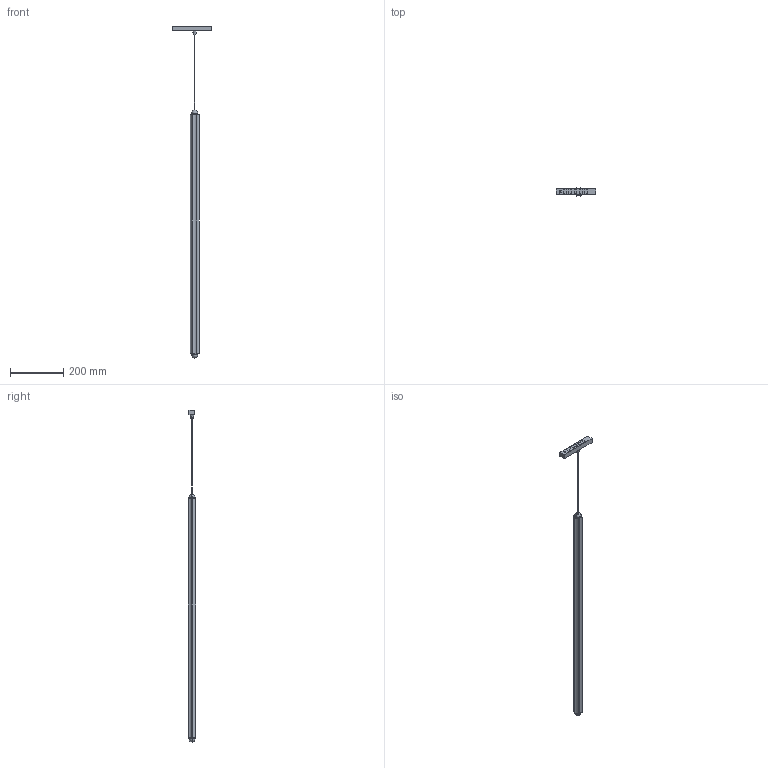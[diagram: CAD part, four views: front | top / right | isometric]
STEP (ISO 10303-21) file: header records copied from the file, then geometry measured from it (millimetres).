
FILE_DESCRIPTION(/* description */ (''),/* implementation_level */ '2;1');
FILE_NAME(/* name */ '64662141_3d',/* time_stamp */ '2026-05-12T08:41:05+02:00',/* author */ (''),/* organization */ (''),/* preprocessor_version */ 'ST-DEVELOPER v19.2',/* originating_system */ 'Rhino 8.30',/* authorisation */ '');
FILE_SCHEMA (('CONFIG_CONTROL_DESIGN'));
Length unit declared in the file: millimetre
Products named in the file (1): Document
Bounding box: 149 x 29.26 x 1250.25 mm (x, y, z)
Volume: 338479.7 mm3; surface area: 165266.8 mm2
Topology: 5 solids, 6 shells, 129 faces, 347 edges, 222 vertices
Faces by surface type: cylinder 62, plane 61, bspline 6
Entity records: 4791 total; most frequent: CARTESIAN_POINT 1869, ORIENTED_EDGE 674, DIRECTION 351, EDGE_CURVE 343, AXIS2_PLACEMENT_3D 237, B_SPLINE_CURVE_WITH_KNOTS 225, VERTEX_POINT 222, EDGE_LOOP 149
